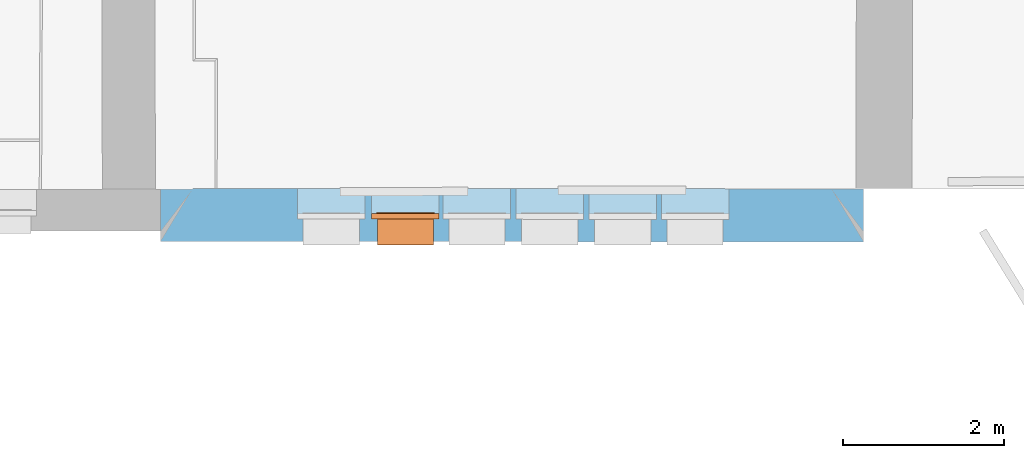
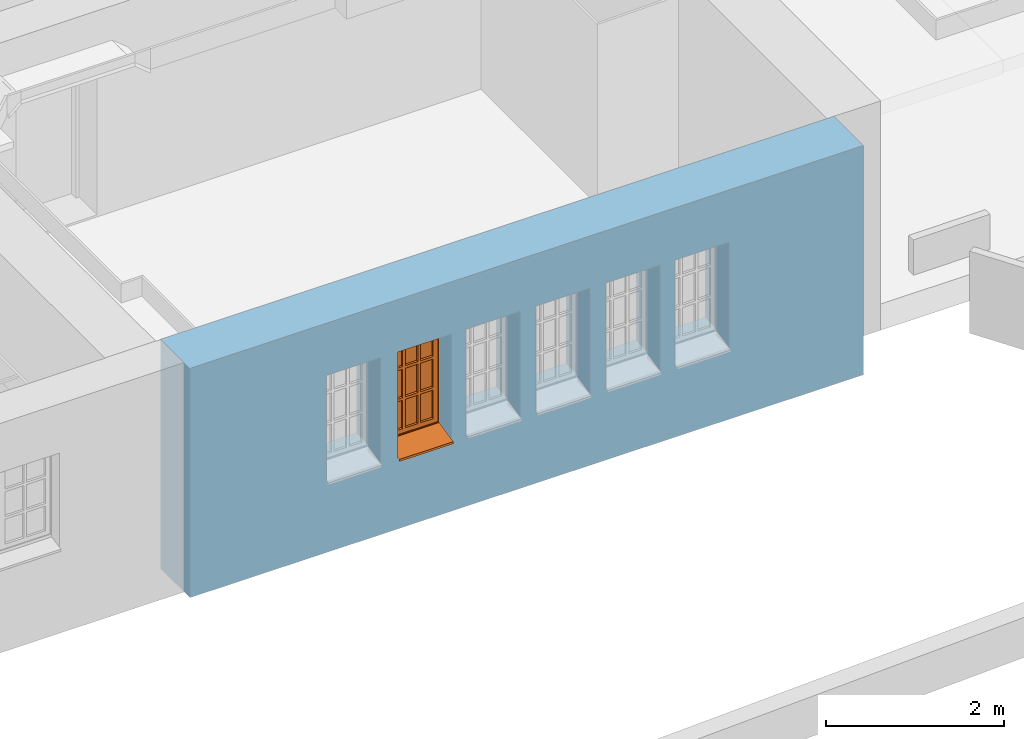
# One storey, part 82 of 196: 1 proxy, 6 openings, plus 1 element that does not belong to this part.
"""IFC2X3 building model written with IfcOpenShell, lengths in metres."""

from ifc_helpers import new_model, entity, si_unit, converted_unit, derived_unit, money_unit, direction, frame, origin_with_axes, origin_2d_with_axis, place, context, subcontext, project, spatial, polyline, rectangle, outline, extrude, boolean, open_shell, faceted_brep, surface_model, material, type_object, element, fill, save


model = new_model("IFC2X3")

# Units and contexts
model_context = context("Model", 3, precision=1e-05, world=origin_with_axes(), true_north=direction((0.0, 1.0)))
body_context = subcontext(model_context, "Body", "Model", "MODEL_VIEW")
ifc_project = project(units=[si_unit("LENGTHUNIT", "METRE"), si_unit("AREAUNIT", "SQUARE_METRE"), si_unit("VOLUMEUNIT", "CUBIC_METRE"), converted_unit("PLANEANGLEUNIT", "DEGREE", entity("IfcPlaneAngleMeasure", 0.0174532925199), si_unit("PLANEANGLEUNIT", "RADIAN"), dimensions=[0, 0, 0, 0, 0, 0, 0]), money_unit("EUR"), converted_unit("TIMEUNIT", "Year", entity("IfcTimeMeasure", 31556926.0), si_unit("TIMEUNIT", "SECOND"), dimensions=[0, 0, 1, 0, 0, 0, 0]), si_unit("MASSUNIT", "GRAM", prefix="KILO"), si_unit("THERMODYNAMICTEMPERATUREUNIT", "DEGREE_CELSIUS"), si_unit("LUMINOUSINTENSITYUNIT", "LUMEN"), si_unit("ENERGYUNIT", "JOULE", prefix="MEGA"), derived_unit("THERMALCONDUCTANCEUNIT", [(si_unit("POWERUNIT", "WATT"), 1), (si_unit("LENGTHUNIT", "METRE"), -1), (si_unit("THERMODYNAMICTEMPERATUREUNIT", "KELVIN"), -1)]), derived_unit("SPECIFICHEATCAPACITYUNIT", [(si_unit("ENERGYUNIT", "JOULE"), 1), (si_unit("MASSUNIT", "GRAM", prefix="KILO"), -1), (si_unit("THERMODYNAMICTEMPERATUREUNIT", "KELVIN"), -1)]), derived_unit("MASSDENSITYUNIT", [(si_unit("MASSUNIT", "GRAM", prefix="KILO"), 1), (si_unit("VOLUMEUNIT", "CUBIC_METRE"), -1)])], contexts=[model_context])

# Site, building, storey
site_placement = place(None, origin_with_axes())
site = spatial("IfcSite", under=ifc_project, at=site_placement, Name="Gelände", CompositionType="ELEMENT")
building_placement = place(site_placement, origin_with_axes())
building = spatial("IfcBuilding", under=site, at=building_placement, Name="Gebäude", CompositionType="ELEMENT")
storey_placement = place(building_placement, frame((0.0, 0.0, -3.0), z_axis=(0.0, 0.0, 1.0), x_axis=(1.0, 0.0, 0.0)))
storey = spatial("IfcBuildingStorey", under=building, at=storey_placement, Name="KELLERGESCHOSS", CompositionType="ELEMENT", Elevation=-3.0)

# Wall, openings, proxy
ifc_material = material(Name="05_ALLGEMEIN - TRAGENDE BAUTEILE")
wall_type = type_object("IfcWallType", Name="05_ALLGEMEIN - TRAGENDE BAUTEILE 660", PredefinedType="ELEMENTEDWALL")
wall_placement = place(storey_placement, frame((3.68030708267, 9.80941916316, -0.36), z_axis=(0.0, 0.0, 1.0), x_axis=(0.999999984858, -0.000174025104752, 0.0)))
wall = element("IfcWall", 1, at=wall_placement, inside=storey, type_object=wall_type, material=ifc_material, Name="Wand-032", ObjectType="ELEMENTEDWALL", context=body_context, shape_type="CSG", body=[
    boolean("DIFFERENCE", extrude(outline(polyline([(0.0, 0.0), (8.74672447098, 0.0), (8.74672447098, 0.66), (0.0, 0.66), (0.0, 0.0)])), origin_with_axes(), (0.0, 0.0, 1.0), 3.15), faceted_brep([(8.36400803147, 0.66, 3.15), (8.36400803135, 0.66, 3.065), (8.74672447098, 0.66, 3.065), (8.74672447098, 0.66, 0.0), (0.0, 0.66, 0.0), (0.0, 0.66, 3.15), (0.396377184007, 0.651638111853, 3.15), (0.396377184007, 0.651638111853, 0.0), (8.3467354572, 0.659981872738, 0.0), (8.3467354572, 0.659981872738, 3.065), (8.74672447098, 0.0, 3.065), (8.74672447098, 0.0, 0.0), (0.0, 0.0, 0.0), (0.0, 0.0, 3.15)], [[[0, 1, 2, 3, 4, 5]], [[1, 0, 6, 7, 8, 9]], [[10, 2, 1, 9]], [[10, 11, 3, 2]], [[7, 12, 4, 3, 11, 8]], [[12, 13, 5, 4]], [[6, 0, 5, 13]], [[6, 13, 12, 7]], [[11, 10, 9, 8]]])),
])
opening_1_placement = place(wall_placement, frame((6.65087656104, 0.0, 0.977921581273), z_axis=(0.0, 0.0, 1.0), x_axis=(1.0, 0.0, 0.0)))
element("IfcOpeningElement", 2, at=opening_1_placement, cuts=wall, Name="Fenster-015", context=body_context, shape_type="SweptSolid", body=[
    extrude(rectangle(XDim=0.840207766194, YDim=1.52470991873, at=origin_2d_with_axis()), frame((0.0, 0.28, 0.762354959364), z_axis=(0.0, -1.0, 0.0), x_axis=(1.0, 0.0, 0.0)), (0.0, 0.0, -1.0), 1.04),
    extrude(rectangle(XDim=0.700207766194, YDim=1.45470991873, at=origin_2d_with_axis()), frame((0.0, 0.28, 0.727354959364), z_axis=(0.0, 1.0, 0.0), x_axis=(1.0, 0.0, 0.0)), (0.0, 0.0, -1.0), 0.94),
])
opening_2_placement = place(wall_placement, frame((5.75227144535, 0.0, 0.977921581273), z_axis=(0.0, 0.0, 1.0), x_axis=(1.0, 0.0, 0.0)))
element("IfcOpeningElement", 3, at=opening_2_placement, cuts=wall, Name="Fenster-015", context=body_context, shape_type="SweptSolid", body=[
    extrude(rectangle(XDim=0.840207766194, YDim=1.52470991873, at=origin_2d_with_axis()), frame((0.0, 0.28, 0.762354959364), z_axis=(0.0, -1.0, 0.0), x_axis=(1.0, 0.0, 0.0)), (0.0, 0.0, -1.0), 1.04),
    extrude(rectangle(XDim=0.700207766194, YDim=1.45470991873, at=origin_2d_with_axis()), frame((0.0, 0.28, 0.727354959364), z_axis=(0.0, 1.0, 0.0), x_axis=(1.0, 0.0, 0.0)), (0.0, 0.0, -1.0), 0.94),
])
opening_3_placement = place(wall_placement, frame((2.12414616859, 0.0, 0.977921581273), z_axis=(0.0, 0.0, 1.0), x_axis=(1.0, 0.0, 0.0)))
element("IfcOpeningElement", 4, at=opening_3_placement, cuts=wall, Name="Fenster-015", context=body_context, shape_type="SweptSolid", body=[
    extrude(rectangle(XDim=0.840207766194, YDim=1.52470991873, at=origin_2d_with_axis()), frame((0.0, 0.28, 0.762354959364), z_axis=(0.0, -1.0, 0.0), x_axis=(1.0, 0.0, 0.0)), (0.0, 0.0, -1.0), 1.04),
    extrude(rectangle(XDim=0.700207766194, YDim=1.45470991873, at=origin_2d_with_axis()), frame((0.0, 0.28, 0.727354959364), z_axis=(0.0, 1.0, 0.0), x_axis=(1.0, 0.0, 0.0)), (0.0, 0.0, -1.0), 0.94),
])
opening_4_placement = place(wall_placement, frame((3.04781651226, 0.0, 0.977921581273), z_axis=(0.0, 0.0, 1.0), x_axis=(1.0, 0.0, 0.0)))
opening_4 = element("IfcOpeningElement", 5, at=opening_4_placement, cuts=wall, Name="Fenster-015", context=body_context, shape_type="SweptSolid", body=[
    extrude(rectangle(XDim=0.840207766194, YDim=1.52470991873, at=origin_2d_with_axis()), frame((0.0, 0.28, 0.762354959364), z_axis=(0.0, -1.0, 0.0), x_axis=(1.0, 0.0, 0.0)), (0.0, 0.0, -1.0), 1.04),
    extrude(rectangle(XDim=0.700207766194, YDim=1.45470991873, at=origin_2d_with_axis()), frame((0.0, 0.28, 0.727354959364), z_axis=(0.0, 1.0, 0.0), x_axis=(1.0, 0.0, 0.0)), (0.0, 0.0, -1.0), 0.94),
])
opening_5_placement = place(wall_placement, frame((3.9368208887, 0.0, 0.977921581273), z_axis=(0.0, 0.0, 1.0), x_axis=(1.0, 0.0, 0.0)))
element("IfcOpeningElement", 6, at=opening_5_placement, cuts=wall, Name="Fenster-015", context=body_context, shape_type="SweptSolid", body=[
    extrude(rectangle(XDim=0.840207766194, YDim=1.52470991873, at=origin_2d_with_axis()), frame((0.0, 0.28, 0.762354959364), z_axis=(0.0, -1.0, 0.0), x_axis=(1.0, 0.0, 0.0)), (0.0, 0.0, -1.0), 1.04),
    extrude(rectangle(XDim=0.700207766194, YDim=1.45470991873, at=origin_2d_with_axis()), frame((0.0, 0.28, 0.727354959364), z_axis=(0.0, 1.0, 0.0), x_axis=(1.0, 0.0, 0.0)), (0.0, 0.0, -1.0), 0.94),
])
opening_6_placement = place(wall_placement, frame((4.8431156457, 0.0, 0.977921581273), z_axis=(0.0, 0.0, 1.0), x_axis=(1.0, 0.0, 0.0)))
element("IfcOpeningElement", 7, at=opening_6_placement, cuts=wall, Name="Fenster-015", context=body_context, shape_type="SweptSolid", body=[
    extrude(rectangle(XDim=0.840207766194, YDim=1.52470991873, at=origin_2d_with_axis()), frame((0.0, 0.28, 0.762354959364), z_axis=(0.0, -1.0, 0.0), x_axis=(1.0, 0.0, 0.0)), (0.0, 0.0, -1.0), 1.04),
    extrude(rectangle(XDim=0.700207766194, YDim=1.45470991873, at=origin_2d_with_axis()), frame((0.0, 0.28, 0.727354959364), z_axis=(0.0, 1.0, 0.0), x_axis=(1.0, 0.0, 0.0)), (0.0, 0.0, -1.0), 0.94),
])
building_element_proxy_type = type_object("IfcBuildingElementProxyType", Name="1-Flügelfenster 25", PredefinedType="NOTDEFINED")
proxy_placement = place(opening_4_placement, frame((-0.420103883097, 0.0, 0.0), z_axis=(0.0, 0.0, 1.0), x_axis=(1.0, 0.0, 0.0)))
proxy = element("IfcBuildingElementProxy", 8, at=proxy_placement, inside=storey, type_object=building_element_proxy_type, Name="Fenster-015", context=body_context, shape_type="SurfaceModel", body=[
    surface_model("IfcShellBasedSurfaceModel", [(0.07, 0.279, 0.08), (0.07, 0.279, 0.07), (0.770207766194, 0.279, 0.07), (0.770207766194, 0.279, 0.08), (0.07, -0.04, 0.00142857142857), (0.770207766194, -0.04, 0.00142857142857), (0.07, -0.04, -0.0285714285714), (0.770207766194, -0.04, -0.0285714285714), (0.07, -0.025, -0.0135714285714), (0.770207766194, -0.025, -0.0135714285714)], [open_shell([[[0, 1, 2, 3]], [[1, 4, 5, 2]], [[4, 6, 7, 5]], [[6, 8, 9, 7]]])]),
    faceted_brep([(0.07, 0.28, 0.0689771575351), (0.07, 0.0, 0.00878906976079), (0.770207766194, 0.0, 0.00878906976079), (0.770207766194, 0.28, 0.0689771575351), (0.07, 0.28, 0.0), (0.07, 0.0, 0.0), (0.770207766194, 0.0, 0.0), (0.770207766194, 0.28, 0.0)], [[[0, 1, 2, 3]], [[0, 4, 5, 1]], [[1, 5, 6, 2]], [[3, 2, 6, 7]], [[4, 0, 3, 7]], [[5, 4, 7, 6]]]),
    faceted_brep([(0.0, 0.28, 0.0), (0.0, 0.35, 0.0), (0.08, 0.35, 0.08), (0.08, 0.28, 0.08), (0.0, 0.28, 1.52470991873), (0.0, 0.35, 1.52470991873), (0.08, 0.35, 1.44470991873), (0.08, 0.28, 1.44470991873)], [[[0, 1, 2, 3]], [[4, 5, 1, 0]], [[1, 5, 6, 2]], [[3, 2, 6, 7]], [[0, 3, 7, 4]], [[7, 6, 5, 4]]]),
    faceted_brep([(0.840207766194, 0.28, 0.0), (0.840207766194, 0.35, 0.0), (0.840207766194, 0.35, 1.52470991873), (0.840207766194, 0.28, 1.52470991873), (0.760207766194, 0.28, 0.08), (0.760207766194, 0.35, 0.08), (0.760207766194, 0.35, 1.44470991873), (0.760207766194, 0.28, 1.44470991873)], [[[0, 1, 2, 3]], [[4, 5, 1, 0]], [[1, 5, 6, 2]], [[3, 2, 6, 7]], [[0, 3, 7, 4]], [[7, 6, 5, 4]]]),
    faceted_brep([(0.0, 0.28, 0.0), (0.0, 0.35, 0.0), (0.840207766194, 0.35, 0.0), (0.840207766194, 0.28, 0.0), (0.08, 0.28, 0.08), (0.08, 0.35, 0.08), (0.420103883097, 0.35, 0.08), (0.760207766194, 0.35, 0.08), (0.760207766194, 0.28, 0.08), (0.420103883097, 0.28, 0.08)], [[[0, 1, 2, 3]], [[4, 5, 1, 0]], [[1, 5, 6, 7, 2]], [[3, 2, 7, 8]], [[0, 3, 8, 9, 4]], [[9, 6, 5, 4]], [[8, 7, 6, 9]]]),
    faceted_brep([(0.0, 0.28, 1.52470991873), (0.0, 0.35, 1.52470991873), (0.08, 0.35, 1.44470991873), (0.08, 0.28, 1.44470991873), (0.840207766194, 0.28, 1.52470991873), (0.840207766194, 0.35, 1.52470991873), (0.760207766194, 0.35, 1.44470991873), (0.420103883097, 0.35, 1.44470991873), (0.420103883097, 0.28, 1.44470991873), (0.760207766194, 0.28, 1.44470991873)], [[[0, 1, 2, 3]], [[4, 5, 1, 0]], [[1, 5, 6, 7, 2]], [[3, 2, 7, 8]], [[0, 3, 8, 9, 4]], [[9, 6, 5, 4]], [[8, 7, 6, 9]]]),
    faceted_brep([(0.06, 0.35, 0.06), (0.06, 0.363, 0.06), (0.14, 0.363, 0.14), (0.14, 0.35, 0.14), (0.06, 0.35, 1.46470991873), (0.06, 0.363, 1.46470991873), (0.14, 0.363, 1.38470991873), (0.14, 0.35, 1.38470991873)], [[[0, 1, 2, 3]], [[4, 5, 1, 0]], [[1, 5, 6, 2]], [[3, 2, 6, 7]], [[0, 3, 7, 4]], [[7, 6, 5, 4]]]),
    faceted_brep([(0.780207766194, 0.35, 0.06), (0.700207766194, 0.35, 0.14), (0.700207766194, 0.363, 0.14), (0.780207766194, 0.363, 0.06), (0.780207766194, 0.35, 1.46470991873), (0.700207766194, 0.35, 1.38470991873), (0.700207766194, 0.363, 1.38470991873), (0.780207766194, 0.363, 1.46470991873)], [[[0, 1, 2, 3]], [[0, 4, 5, 1]], [[1, 5, 6, 2]], [[3, 2, 6, 7]], [[4, 0, 3, 7]], [[5, 4, 7, 6]]]),
    faceted_brep([(0.06, 0.35, 0.06), (0.06, 0.363, 0.06), (0.780207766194, 0.363, 0.06), (0.780207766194, 0.35, 0.06), (0.14, 0.35, 0.14), (0.14, 0.363, 0.14), (0.700207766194, 0.363, 0.14), (0.700207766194, 0.35, 0.14)], [[[0, 1, 2, 3]], [[4, 5, 1, 0]], [[1, 5, 6, 2]], [[3, 2, 6, 7]], [[0, 3, 7, 4]], [[7, 6, 5, 4]]]),
    faceted_brep([(0.06, 0.35, 1.46470991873), (0.780207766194, 0.35, 1.46470991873), (0.780207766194, 0.363, 1.46470991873), (0.06, 0.363, 1.46470991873), (0.14, 0.35, 1.38470991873), (0.700207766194, 0.35, 1.38470991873), (0.700207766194, 0.363, 1.38470991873), (0.14, 0.363, 1.38470991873)], [[[0, 1, 2, 3]], [[0, 4, 5, 1]], [[1, 5, 6, 2]], [[3, 2, 6, 7]], [[4, 0, 3, 7]], [[5, 4, 7, 6]]]),
    faceted_brep([(0.08, 0.293, 0.08), (0.08, 0.35, 0.08), (0.14, 0.35, 0.14), (0.14, 0.293, 0.14), (0.08, 0.293, 1.44470991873), (0.08, 0.35, 1.44470991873), (0.14, 0.35, 1.38470991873), (0.14, 0.293, 1.38470991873)], [[[0, 1, 2, 3]], [[4, 5, 1, 0]], [[1, 5, 6, 2]], [[3, 2, 6, 7]], [[0, 3, 7, 4]], [[7, 6, 5, 4]]]),
    faceted_brep([(0.760207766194, 0.293, 0.08), (0.700207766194, 0.293, 0.14), (0.700207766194, 0.35, 0.14), (0.760207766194, 0.35, 0.08), (0.760207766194, 0.293, 1.44470991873), (0.700207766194, 0.293, 1.38470991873), (0.700207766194, 0.35, 1.38470991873), (0.760207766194, 0.35, 1.44470991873)], [[[0, 1, 2, 3]], [[0, 4, 5, 1]], [[1, 5, 6, 2]], [[3, 2, 6, 7]], [[4, 0, 3, 7]], [[5, 4, 7, 6]]]),
    faceted_brep([(0.08, 0.293, 0.08), (0.08, 0.35, 0.08), (0.760207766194, 0.35, 0.08), (0.760207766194, 0.293, 0.08), (0.14, 0.293, 0.14), (0.14, 0.35, 0.14), (0.700207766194, 0.35, 0.14), (0.700207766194, 0.293, 0.14)], [[[0, 1, 2, 3]], [[4, 5, 1, 0]], [[1, 5, 6, 2]], [[3, 2, 6, 7]], [[0, 3, 7, 4]], [[7, 6, 5, 4]]]),
    faceted_brep([(0.08, 0.293, 1.44470991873), (0.760207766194, 0.293, 1.44470991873), (0.760207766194, 0.35, 1.44470991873), (0.08, 0.35, 1.44470991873), (0.14, 0.293, 1.38470991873), (0.700207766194, 0.293, 1.38470991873), (0.700207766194, 0.35, 1.38470991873), (0.14, 0.35, 1.38470991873)], [[[0, 1, 2, 3]], [[0, 4, 5, 1]], [[1, 5, 6, 2]], [[3, 2, 6, 7]], [[4, 0, 3, 7]], [[5, 4, 7, 6]]]),
    faceted_brep([(0.303402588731, 0.293, 0.14), (0.303402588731, 0.328, 0.14), (0.338402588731, 0.328, 0.14), (0.338402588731, 0.293, 0.14), (0.303402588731, 0.293, 1.38470991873), (0.303402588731, 0.328, 1.38470991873), (0.338402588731, 0.328, 1.38470991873), (0.338402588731, 0.293, 1.38470991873)], [[[0, 1, 2, 3]], [[4, 5, 1, 0]], [[1, 5, 6, 2]], [[3, 2, 6, 7]], [[0, 3, 7, 4]], [[7, 6, 5, 4]]]),
    faceted_brep([(0.303402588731, 0.328, 0.14), (0.303402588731, 0.363, 0.14), (0.338402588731, 0.363, 0.14), (0.338402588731, 0.328, 0.14), (0.303402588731, 0.328, 1.38470991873), (0.303402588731, 0.363, 1.38470991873), (0.338402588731, 0.363, 1.38470991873), (0.338402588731, 0.328, 1.38470991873)], [[[0, 1, 2, 3]], [[4, 5, 1, 0]], [[1, 5, 6, 2]], [[3, 2, 6, 7]], [[0, 3, 7, 4]], [[7, 6, 5, 4]]]),
    faceted_brep([(0.501805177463, 0.293, 0.14), (0.501805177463, 0.328, 0.14), (0.536805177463, 0.328, 0.14), (0.536805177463, 0.293, 0.14), (0.501805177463, 0.293, 1.38470991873), (0.501805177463, 0.328, 1.38470991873), (0.536805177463, 0.328, 1.38470991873), (0.536805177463, 0.293, 1.38470991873)], [[[0, 1, 2, 3]], [[4, 5, 1, 0]], [[1, 5, 6, 2]], [[3, 2, 6, 7]], [[0, 3, 7, 4]], [[7, 6, 5, 4]]]),
    faceted_brep([(0.501805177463, 0.328, 0.14), (0.501805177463, 0.363, 0.14), (0.536805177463, 0.363, 0.14), (0.536805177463, 0.328, 0.14), (0.501805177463, 0.328, 1.38470991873), (0.501805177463, 0.363, 1.38470991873), (0.536805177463, 0.363, 1.38470991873), (0.536805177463, 0.328, 1.38470991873)], [[[0, 1, 2, 3]], [[4, 5, 1, 0]], [[1, 5, 6, 2]], [[3, 2, 6, 7]], [[0, 3, 7, 4]], [[7, 6, 5, 4]]]),
    faceted_brep([(0.501805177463, 0.293, 0.531569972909), (0.501805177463, 0.293, 0.566569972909), (0.338402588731, 0.293, 0.566569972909), (0.338402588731, 0.293, 0.531569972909), (0.501805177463, 0.328, 0.566569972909), (0.501805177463, 0.328, 0.531569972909), (0.338402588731, 0.328, 0.566569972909), (0.338402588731, 0.328, 0.531569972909)], [[[0, 1, 2, 3]], [[4, 1, 0, 5]], [[1, 4, 6, 2]], [[2, 6, 7, 3]], [[5, 0, 3, 7]], [[4, 5, 7, 6]]]),
    faceted_brep([(0.14, 0.293, 0.566569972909), (0.14, 0.293, 0.531569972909), (0.303402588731, 0.293, 0.531569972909), (0.303402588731, 0.293, 0.566569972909), (0.14, 0.328, 0.566569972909), (0.14, 0.328, 0.531569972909), (0.303402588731, 0.328, 0.531569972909), (0.303402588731, 0.328, 0.566569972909)], [[[0, 1, 2, 3]], [[1, 0, 4, 5]], [[1, 5, 6, 2]], [[2, 6, 7, 3]], [[4, 0, 3, 7]], [[5, 4, 7, 6]]]),
    faceted_brep([(0.536805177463, 0.328, 0.566569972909), (0.536805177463, 0.293, 0.566569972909), (0.700207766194, 0.293, 0.566569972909), (0.700207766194, 0.328, 0.566569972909), (0.536805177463, 0.293, 0.531569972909), (0.536805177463, 0.328, 0.531569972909), (0.700207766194, 0.293, 0.531569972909), (0.700207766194, 0.328, 0.531569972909)], [[[0, 1, 2, 3]], [[4, 1, 0, 5]], [[1, 4, 6, 2]], [[3, 2, 6, 7]], [[5, 0, 3, 7]], [[4, 5, 7, 6]]]),
    faceted_brep([(0.501805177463, 0.328, 0.531569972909), (0.501805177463, 0.328, 0.566569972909), (0.338402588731, 0.328, 0.566569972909), (0.338402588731, 0.328, 0.531569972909), (0.501805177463, 0.363, 0.566569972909), (0.501805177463, 0.363, 0.531569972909), (0.338402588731, 0.363, 0.566569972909), (0.338402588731, 0.363, 0.531569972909)], [[[0, 1, 2, 3]], [[4, 1, 0, 5]], [[1, 4, 6, 2]], [[2, 6, 7, 3]], [[5, 0, 3, 7]], [[4, 5, 7, 6]]]),
    faceted_brep([(0.14, 0.328, 0.566569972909), (0.14, 0.328, 0.531569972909), (0.303402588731, 0.328, 0.531569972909), (0.303402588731, 0.328, 0.566569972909), (0.14, 0.363, 0.566569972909), (0.14, 0.363, 0.531569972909), (0.303402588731, 0.363, 0.531569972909), (0.303402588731, 0.363, 0.566569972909)], [[[0, 1, 2, 3]], [[1, 0, 4, 5]], [[1, 5, 6, 2]], [[2, 6, 7, 3]], [[4, 0, 3, 7]], [[5, 4, 7, 6]]]),
    faceted_brep([(0.536805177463, 0.363, 0.566569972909), (0.536805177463, 0.328, 0.566569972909), (0.700207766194, 0.328, 0.566569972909), (0.700207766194, 0.363, 0.566569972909), (0.536805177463, 0.328, 0.531569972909), (0.536805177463, 0.363, 0.531569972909), (0.700207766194, 0.328, 0.531569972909), (0.700207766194, 0.363, 0.531569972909)], [[[0, 1, 2, 3]], [[4, 1, 0, 5]], [[1, 4, 6, 2]], [[3, 2, 6, 7]], [[5, 0, 3, 7]], [[4, 5, 7, 6]]]),
    faceted_brep([(0.501805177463, 0.293, 0.958139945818), (0.501805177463, 0.293, 0.993139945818), (0.338402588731, 0.293, 0.993139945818), (0.338402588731, 0.293, 0.958139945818), (0.501805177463, 0.328, 0.993139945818), (0.501805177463, 0.328, 0.958139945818), (0.338402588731, 0.328, 0.993139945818), (0.338402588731, 0.328, 0.958139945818)], [[[0, 1, 2, 3]], [[4, 1, 0, 5]], [[1, 4, 6, 2]], [[2, 6, 7, 3]], [[5, 0, 3, 7]], [[4, 5, 7, 6]]]),
    faceted_brep([(0.14, 0.293, 0.993139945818), (0.14, 0.293, 0.958139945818), (0.303402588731, 0.293, 0.958139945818), (0.303402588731, 0.293, 0.993139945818), (0.14, 0.328, 0.993139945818), (0.14, 0.328, 0.958139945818), (0.303402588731, 0.328, 0.958139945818), (0.303402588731, 0.328, 0.993139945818)], [[[0, 1, 2, 3]], [[1, 0, 4, 5]], [[1, 5, 6, 2]], [[2, 6, 7, 3]], [[4, 0, 3, 7]], [[5, 4, 7, 6]]]),
    faceted_brep([(0.536805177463, 0.328, 0.993139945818), (0.536805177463, 0.293, 0.993139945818), (0.700207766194, 0.293, 0.993139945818), (0.700207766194, 0.328, 0.993139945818), (0.536805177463, 0.293, 0.958139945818), (0.536805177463, 0.328, 0.958139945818), (0.700207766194, 0.293, 0.958139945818), (0.700207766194, 0.328, 0.958139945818)], [[[0, 1, 2, 3]], [[4, 1, 0, 5]], [[1, 4, 6, 2]], [[3, 2, 6, 7]], [[5, 0, 3, 7]], [[4, 5, 7, 6]]]),
    faceted_brep([(0.501805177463, 0.328, 0.958139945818), (0.501805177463, 0.328, 0.993139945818), (0.338402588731, 0.328, 0.993139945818), (0.338402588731, 0.328, 0.958139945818), (0.501805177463, 0.363, 0.993139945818), (0.501805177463, 0.363, 0.958139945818), (0.338402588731, 0.363, 0.993139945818), (0.338402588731, 0.363, 0.958139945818)], [[[0, 1, 2, 3]], [[4, 1, 0, 5]], [[1, 4, 6, 2]], [[2, 6, 7, 3]], [[5, 0, 3, 7]], [[4, 5, 7, 6]]]),
    faceted_brep([(0.14, 0.328, 0.993139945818), (0.14, 0.328, 0.958139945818), (0.303402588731, 0.328, 0.958139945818), (0.303402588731, 0.328, 0.993139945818), (0.14, 0.363, 0.993139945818), (0.14, 0.363, 0.958139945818), (0.303402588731, 0.363, 0.958139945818), (0.303402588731, 0.363, 0.993139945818)], [[[0, 1, 2, 3]], [[1, 0, 4, 5]], [[1, 5, 6, 2]], [[2, 6, 7, 3]], [[4, 0, 3, 7]], [[5, 4, 7, 6]]]),
    faceted_brep([(0.536805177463, 0.363, 0.993139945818), (0.536805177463, 0.328, 0.993139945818), (0.700207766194, 0.328, 0.993139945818), (0.700207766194, 0.363, 0.993139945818), (0.536805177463, 0.328, 0.958139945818), (0.536805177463, 0.363, 0.958139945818), (0.700207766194, 0.328, 0.958139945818), (0.700207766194, 0.363, 0.958139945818)], [[[0, 1, 2, 3]], [[4, 1, 0, 5]], [[1, 4, 6, 2]], [[3, 2, 6, 7]], [[5, 0, 3, 7]], [[4, 5, 7, 6]]]),
    faceted_brep([(0.303402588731, 0.333, 0.958139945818), (0.303402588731, 0.323, 0.958139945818), (0.303402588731, 0.323, 0.566569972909), (0.303402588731, 0.333, 0.566569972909), (0.14, 0.323, 0.958139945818), (0.14, 0.333, 0.958139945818), (0.14, 0.323, 0.566569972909), (0.14, 0.333, 0.566569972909)], [[[0, 1, 2, 3]], [[4, 1, 0, 5]], [[1, 4, 6, 2]], [[2, 6, 7, 3]], [[5, 0, 3, 7]], [[4, 5, 7, 6]]]),
    faceted_brep([(0.700207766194, 0.323, 0.14), (0.700207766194, 0.333, 0.14), (0.700207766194, 0.333, 0.531569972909), (0.700207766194, 0.323, 0.531569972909), (0.536805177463, 0.323, 0.14), (0.536805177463, 0.333, 0.14), (0.536805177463, 0.333, 0.531569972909), (0.536805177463, 0.323, 0.531569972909)], [[[0, 1, 2, 3]], [[0, 4, 5, 1]], [[1, 5, 6, 2]], [[2, 6, 7, 3]], [[4, 0, 3, 7]], [[5, 4, 7, 6]]]),
    faceted_brep([(0.501805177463, 0.323, 0.14), (0.501805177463, 0.333, 0.14), (0.501805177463, 0.333, 0.531569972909), (0.501805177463, 0.323, 0.531569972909), (0.338402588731, 0.333, 0.14), (0.338402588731, 0.323, 0.14), (0.338402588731, 0.333, 0.531569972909), (0.338402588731, 0.323, 0.531569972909)], [[[0, 1, 2, 3]], [[4, 1, 0, 5]], [[1, 4, 6, 2]], [[2, 6, 7, 3]], [[5, 0, 3, 7]], [[4, 5, 7, 6]]]),
    faceted_brep([(0.303402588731, 0.323, 0.14), (0.303402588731, 0.333, 0.14), (0.303402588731, 0.333, 0.531569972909), (0.303402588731, 0.323, 0.531569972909), (0.14, 0.323, 0.14), (0.14, 0.333, 0.14), (0.14, 0.333, 0.531569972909), (0.14, 0.323, 0.531569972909)], [[[0, 1, 2, 3]], [[0, 4, 5, 1]], [[1, 5, 6, 2]], [[2, 6, 7, 3]], [[4, 0, 3, 7]], [[5, 4, 7, 6]]]),
    faceted_brep([(0.700207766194, 0.333, 0.958139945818), (0.700207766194, 0.323, 0.958139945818), (0.700207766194, 0.323, 0.566569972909), (0.700207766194, 0.333, 0.566569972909), (0.536805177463, 0.323, 0.958139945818), (0.536805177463, 0.333, 0.958139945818), (0.536805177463, 0.323, 0.566569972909), (0.536805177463, 0.333, 0.566569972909)], [[[0, 1, 2, 3]], [[4, 1, 0, 5]], [[1, 4, 6, 2]], [[2, 6, 7, 3]], [[5, 0, 3, 7]], [[4, 5, 7, 6]]]),
    faceted_brep([(0.501805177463, 0.333, 0.958139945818), (0.501805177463, 0.323, 0.958139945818), (0.501805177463, 0.323, 0.566569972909), (0.501805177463, 0.333, 0.566569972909), (0.338402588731, 0.323, 0.958139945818), (0.338402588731, 0.333, 0.958139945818), (0.338402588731, 0.323, 0.566569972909), (0.338402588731, 0.333, 0.566569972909)], [[[0, 1, 2, 3]], [[4, 1, 0, 5]], [[1, 4, 6, 2]], [[2, 6, 7, 3]], [[5, 0, 3, 7]], [[4, 5, 7, 6]]]),
    faceted_brep([(0.14, 0.323, 0.993139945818), (0.303402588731, 0.323, 0.993139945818), (0.303402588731, 0.323, 1.38470991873), (0.14, 0.323, 1.38470991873), (0.303402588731, 0.333, 0.993139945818), (0.14, 0.333, 0.993139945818), (0.303402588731, 0.333, 1.38470991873), (0.14, 0.333, 1.38470991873)], [[[0, 1, 2, 3]], [[4, 1, 0, 5]], [[1, 4, 6, 2]], [[2, 6, 7, 3]], [[5, 0, 3, 7]], [[4, 5, 7, 6]]]),
    faceted_brep([(0.536805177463, 0.323, 0.993139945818), (0.700207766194, 0.323, 0.993139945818), (0.700207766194, 0.323, 1.38470991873), (0.536805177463, 0.323, 1.38470991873), (0.700207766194, 0.333, 0.993139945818), (0.536805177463, 0.333, 0.993139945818), (0.700207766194, 0.333, 1.38470991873), (0.536805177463, 0.333, 1.38470991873)], [[[0, 1, 2, 3]], [[4, 1, 0, 5]], [[1, 4, 6, 2]], [[2, 6, 7, 3]], [[5, 0, 3, 7]], [[4, 5, 7, 6]]]),
    faceted_brep([(0.338402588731, 0.323, 0.993139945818), (0.501805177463, 0.323, 0.993139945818), (0.501805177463, 0.323, 1.38470991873), (0.338402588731, 0.323, 1.38470991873), (0.501805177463, 0.333, 0.993139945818), (0.338402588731, 0.333, 0.993139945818), (0.501805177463, 0.333, 1.38470991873), (0.338402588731, 0.333, 1.38470991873)], [[[0, 1, 2, 3]], [[4, 1, 0, 5]], [[1, 4, 6, 2]], [[7, 3, 2, 6]], [[5, 0, 3, 7]], [[4, 5, 7, 6]]]),
])
fill(opening_4, proxy)

save(model, "model.ifc")
